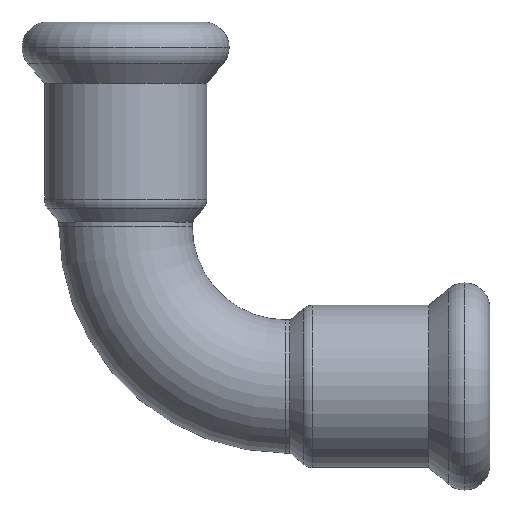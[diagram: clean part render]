
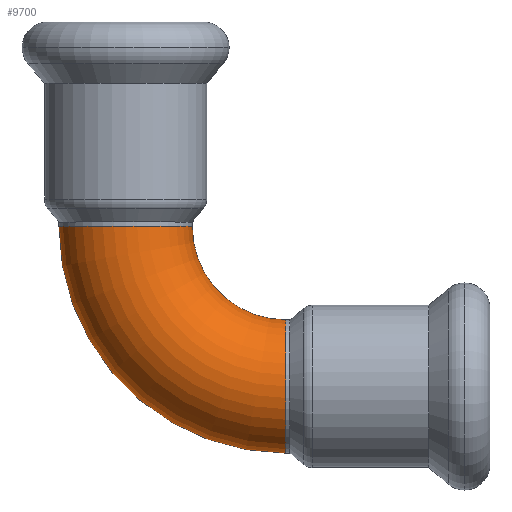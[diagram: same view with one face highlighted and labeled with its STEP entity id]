
A CAD part, top view. The second image highlights one B-rep face of the part: STEP entity #9700.
In plain terms, the highlighted toroidal (fillet/blend) face has major radius 18 mm and minor radius 7.5 mm.
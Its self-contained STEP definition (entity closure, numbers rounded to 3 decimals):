
#6360=CARTESIAN_POINT('',(-78.193,38.409,0.));
#6370=DIRECTION('',(0.,0.,1.));
#6380=DIRECTION('',(-1.,0.,0.));
#6390=AXIS2_PLACEMENT_3D('',#6360,#6370,#6380);
#6400=TOROIDAL_SURFACE('',#6390,18.,7.5);
#6410=CARTESIAN_POINT('',(-78.193,38.409,
0.));
#6420=DIRECTION('',(0.,0.,1.));
#6430=DIRECTION('',(-1.,0.,0.));
#6440=AXIS2_PLACEMENT_3D('',#6410,#6420,#6430);
#6450=CIRCLE('',#6440,10.5);
#6460=CARTESIAN_POINT('',(-88.693,38.409,
0.));
#6470=VERTEX_POINT('',#6460);
#6480=CARTESIAN_POINT('',(-78.193,27.909,
0.));
#6490=VERTEX_POINT('',#6480);
#6500=EDGE_CURVE('',#6470,#6490,#6450,.T.);
#6610=CARTESIAN_POINT('',(-103.693,38.409,
0.));
#6620=VERTEX_POINT('',#6610);
#6650=CARTESIAN_POINT('',(-78.193,38.409,
0.));
#6660=DIRECTION('',(0.,0.,1.));
#6670=DIRECTION('',(-1.,0.,0.));
#6680=AXIS2_PLACEMENT_3D('',#6650,#6660,#6670);
#6690=CIRCLE('',#6680,25.5);
#6700=CARTESIAN_POINT('',(-78.193,12.909,
0.));
#6710=VERTEX_POINT('',#6700);
#6720=EDGE_CURVE('',#6620,#6710,#6690,.T.);
#6740=CARTESIAN_POINT('',(-78.193,20.409,0.));
#6750=DIRECTION('',(1.,0.,0.));
#6760=DIRECTION('',(0.,-1.,0.));
#6770=AXIS2_PLACEMENT_3D('',#6740,#6750,#6760);
#6780=CIRCLE('',#6770,7.5);
#8910=EDGE_CURVE('',#6490,#6710,#6780,.T.);
#9580=CARTESIAN_POINT('',(-96.193,38.409,0.));
#9590=DIRECTION('',(0.,-1.,0.));
#9600=DIRECTION('',(-1.,0.,0.));
#9610=AXIS2_PLACEMENT_3D('',#9580,#9590,#9600);
#9620=CIRCLE('',#9610,7.5);
#9630=EDGE_CURVE('',#6470,#6620,#9620,.T.);
#9640=ORIENTED_EDGE('',*,*,#9630,.T.);
#9650=ORIENTED_EDGE('',*,*,#6500,.F.);
#9660=ORIENTED_EDGE('',*,*,#8910,.F.);
#9670=ORIENTED_EDGE('',*,*,#6720,.T.);
#9680=EDGE_LOOP('',(#9670,#9660,#9650,#9640));
#9690=FACE_OUTER_BOUND('',#9680,.T.);
#9700=ADVANCED_FACE('',(#9690),#6400,.T.);
